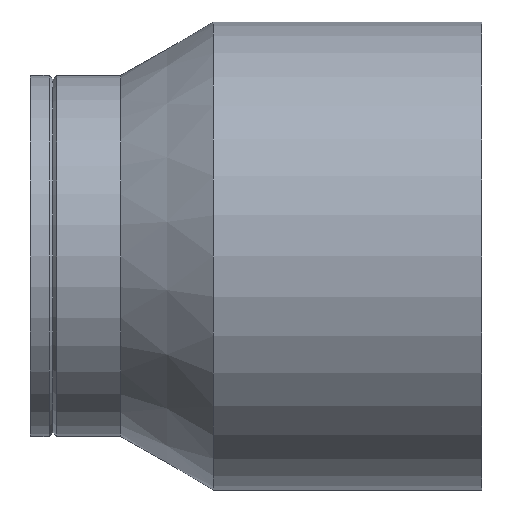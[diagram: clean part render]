
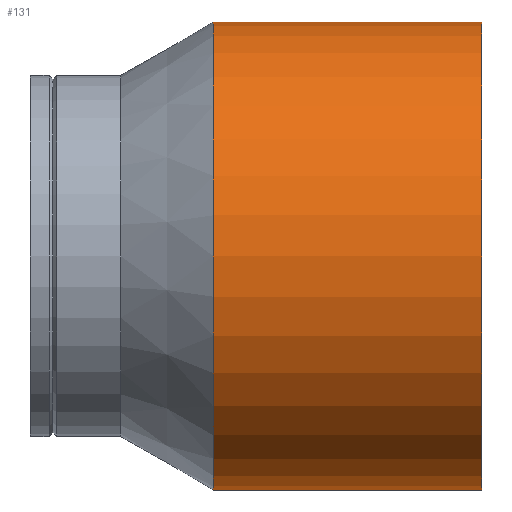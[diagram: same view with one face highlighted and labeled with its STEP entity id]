
A CAD part, front view. The second image highlights one B-rep face of the part: STEP entity #131.
In plain terms, the highlighted cylindrical face has radius 103.7 mm (diameter 207.4 mm), a full revolution.
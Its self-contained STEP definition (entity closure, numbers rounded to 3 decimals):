
#18=CYLINDRICAL_SURFACE($,#154,103.7);
#28=FACE_BOUND($,#59,.T.);
#40=FACE_OUTER_BOUND($,#58,.T.);
#58=EDGE_LOOP($,(#113));
#59=EDGE_LOOP($,(#114));
#72=CIRCLE($,#153,103.7);
#73=CIRCLE($,#155,103.7);
#83=VERTEX_POINT($,#230);
#84=VERTEX_POINT($,#233);
#94=EDGE_CURVE($,#83,#83,#72,.T.);
#95=EDGE_CURVE($,#84,#84,#73,.T.);
#113=ORIENTED_EDGE($,*,*,#95,.F.);
#114=ORIENTED_EDGE($,*,*,#94,.T.);
#131=ADVANCED_FACE($,(#40,#28),#18,.T.);
#153=AXIS2_PLACEMENT_3D($,#231,#193,#194);
#154=AXIS2_PLACEMENT_3D($,#232,#195,#196);
#155=AXIS2_PLACEMENT_3D($,#234,#197,#198);
#193=DIRECTION('center_axis',(1.,0.,0.));
#194=DIRECTION('ref_axis',(0.,1.,0.));
#195=DIRECTION('center_axis',(1.,0.,0.));
#196=DIRECTION('ref_axis',(0.,1.,0.));
#197=DIRECTION('center_axis',(1.,0.,0.));
#198=DIRECTION('ref_axis',(0.,1.,0.));
#230=CARTESIAN_POINT('',(81.05,103.7,0.));
#231=CARTESIAN_POINT('Origin',(81.05,0.,0.));
#232=CARTESIAN_POINT('Origin',(140.525,0.,0.));
#233=CARTESIAN_POINT('',(200.,103.7,0.));
#234=CARTESIAN_POINT('Origin',(200.,0.,0.));
